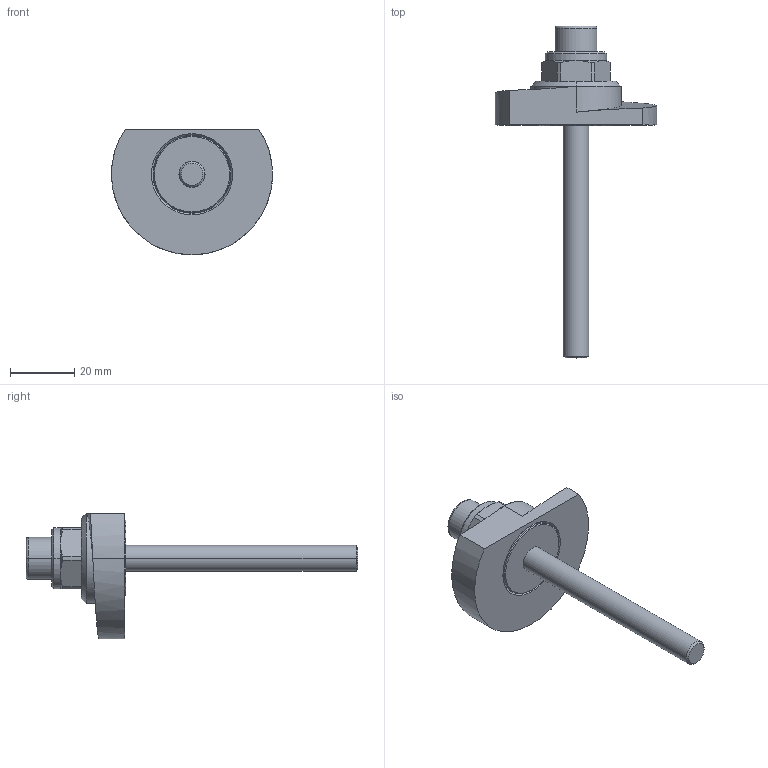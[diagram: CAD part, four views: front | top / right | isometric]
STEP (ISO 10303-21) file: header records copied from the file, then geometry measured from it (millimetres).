
FILE_DESCRIPTION (( 'STEP AP214' ), '1' );
FILE_NAME ('918.1-50-SKS-R-72.step', '2024-05-15T13:03:21', ( '' ), ( '' ), 'SwSTEP 2.0', 'SolidWorks 2022', '' );
FILE_SCHEMA (( 'AUTOMOTIVE_DESIGN' ));
Length unit declared in the file: millimetre
Products named in the file (1): 918.1-50-SKS-R-72
Bounding box: 50 x 103 x 39 mm (x, y, z)
Volume: 23710.8 mm3; surface area: 10137.8 mm2
Topology: 1 solids, 2 shells, 77 faces, 175 edges, 110 vertices
Faces by surface type: cylinder 25, plane 25, cone 22, bspline 3, torus 2
Entity records: 2547 total; most frequent: CARTESIAN_POINT 772, DIRECTION 379, ORIENTED_EDGE 350, EDGE_CURVE 175, AXIS2_PLACEMENT_3D 152, VERTEX_POINT 110, EDGE_LOOP 87, ADVANCED_FACE 77
